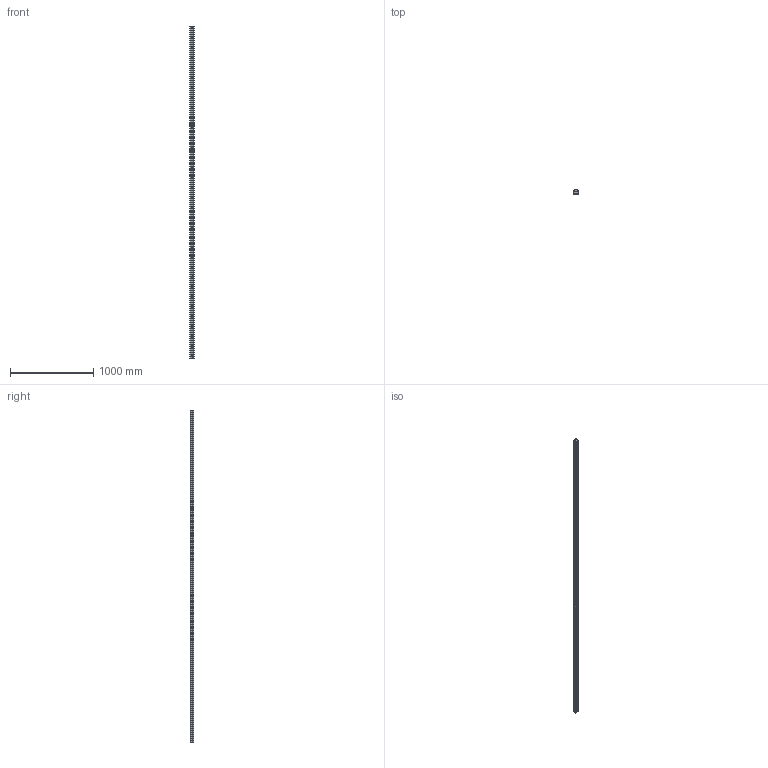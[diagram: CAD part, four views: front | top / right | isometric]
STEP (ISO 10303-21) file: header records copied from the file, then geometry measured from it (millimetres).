
FILE_DESCRIPTION (( 'STEP AP203' ), '1' );
FILE_NAME ('SGR55R4000L.STEP', '2025-06-26T09:04:47', ( 'Owner' ), ( 'Organization' ), 'SwSTEP 2.0', 'SolidWorks 2020', '' );
FILE_SCHEMA (( 'CONFIG_CONTROL_DESIGN' ));
Length unit declared in the file: millimetre
Products named in the file (1): SGR55R4000L
Bounding box: 53 x 44 x 4000 mm (x, y, z)
Volume: 7733507.4 mm3; surface area: 878525.1 mm2
Topology: 1 solids, 1 shells, 204 faces, 504 edges, 336 vertices
Faces by surface type: cylinder 140, plane 64
Entity records: 6401 total; most frequent: DIRECTION 1194, CARTESIAN_POINT 1045, ORIENTED_EDGE 1008, EDGE_CURVE 504, AXIS2_PLACEMENT_3D 485, VERTEX_POINT 336, EDGE_LOOP 306, CIRCLE 280
